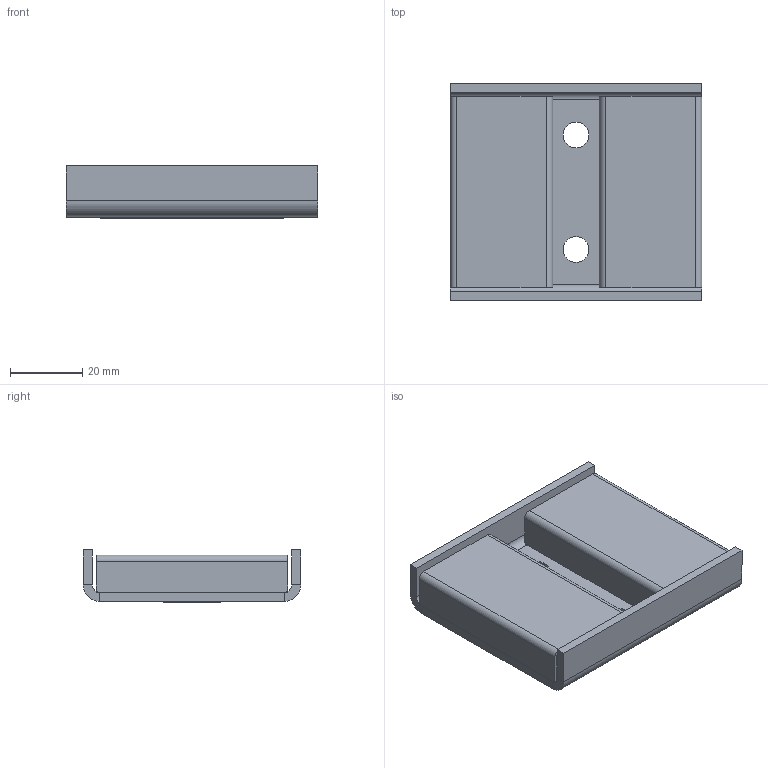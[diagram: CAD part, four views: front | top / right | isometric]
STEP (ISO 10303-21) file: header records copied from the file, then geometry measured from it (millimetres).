
FILE_DESCRIPTION (( 'STEP AP203' ), '1' );
FILE_NAME ('WH2100.STEP', '2018-07-27T13:35:16', ( '' ), ( '' ), 'SwSTEP 2.0', 'SolidWorks 2015', '' );
FILE_SCHEMA (( 'CONFIG_CONTROL_DESIGN' ));
Length unit declared in the file: inch
Products named in the file (1): WH2100
Bounding box: 69.85 x 60.33 x 14.53 mm (x, y, z)
Volume: 38193 mm3; surface area: 30693.2 mm2
Topology: 6 solids, 6 shells, 579 faces, 1479 edges, 970 vertices
Faces by surface type: plane 390, bspline 161, cylinder 28
Entity records: 27108 total; most frequent: CARTESIAN_POINT 14062, ORIENTED_EDGE 2958, DIRECTION 2051, EDGE_CURVE 1479, LINE 1101, VECTOR 1101, VERTEX_POINT 970, EDGE_LOOP 641
